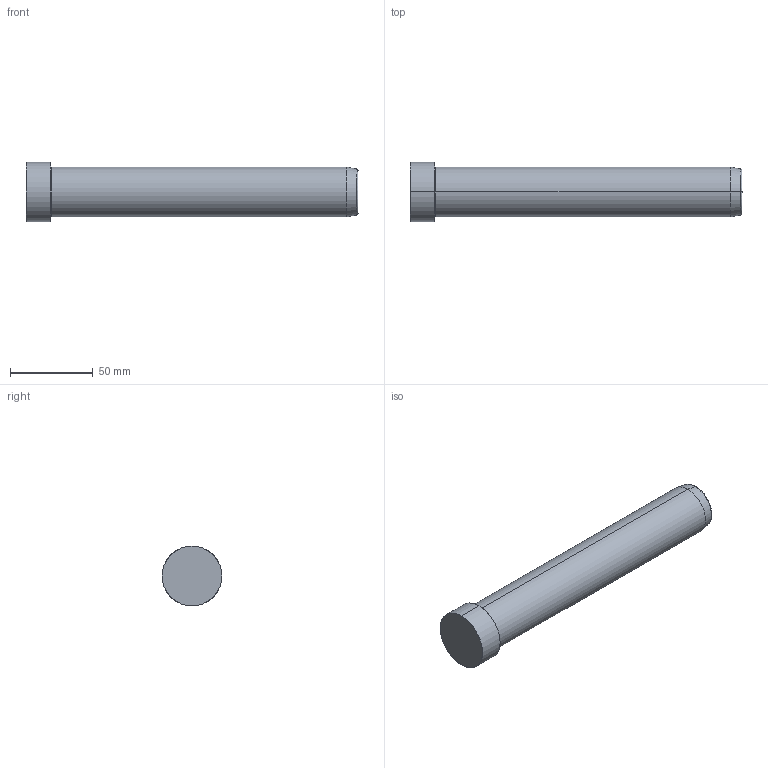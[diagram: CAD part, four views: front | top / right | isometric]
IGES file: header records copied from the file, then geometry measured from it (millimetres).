
Start section: SolidWorks IGES FILE using analytic representation for surfaces
Global section: file name: D:\zzzzz\Delta\D01 D\30\D01 D - 30x200.IGS; native system: SolidWorks 2004 by SolidWorks Corporation; preprocessor: Version 5.3; author: Hkn; date: 080327.145546; units: millimetre
Bounding box: 200 x 36 x 36 mm (x, y, z)
Surface area: 21060.4 mm2 (no closed solid volume)
Topology: 0 solids, 0 shells, 14 faces, 392 edges, 392 vertices
Faces by surface type: revolution 8, bspline 6
